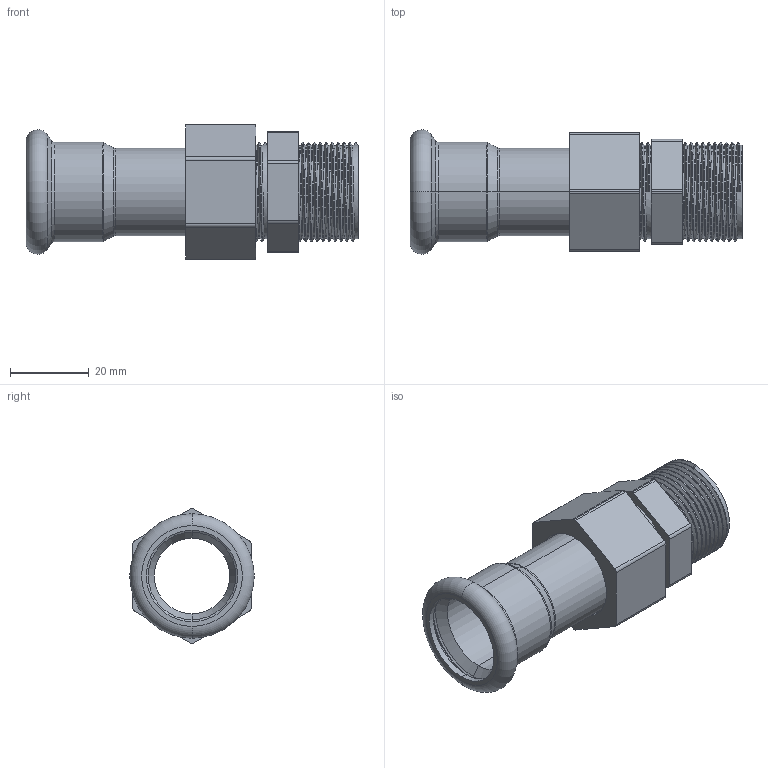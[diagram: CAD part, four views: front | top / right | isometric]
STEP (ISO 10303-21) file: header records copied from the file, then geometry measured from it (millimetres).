
FILE_DESCRIPTION (( 'STEP AP214' ), '1' );
FILE_NAME ('M22200K.STEP', '2025-08-17T06:54:22', ( '' ), ( '' ), 'SwSTEP 2.0', 'SolidWorks 2020', '' );
FILE_SCHEMA (( 'AUTOMOTIVE_DESIGN' ));
Length unit declared in the file: millimetre
Products named in the file (1): M22200K
Bounding box: 84.3 x 31.59 x 34.33 mm (x, y, z)
Volume: 17302.4 mm3; surface area: 18793.9 mm2
Topology: 3 solids, 3 shells, 141 faces, 350 edges, 220 vertices
Faces by surface type: cylinder 80, plane 28, torus 14, cone 10, bspline 9
Entity records: 9360 total; most frequent: CARTESIAN_POINT 4655, ORIENTED_EDGE 700, DIRECTION 614, EDGE_CURVE 350, AXIS2_PLACEMENT_3D 238, VERTEX_POINT 220, EDGE_LOOP 152, UNCERTAINTY_MEASURE_WITH_UNIT 146
